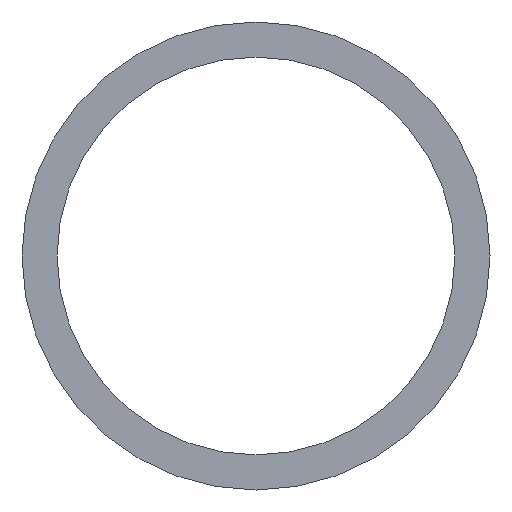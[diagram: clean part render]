
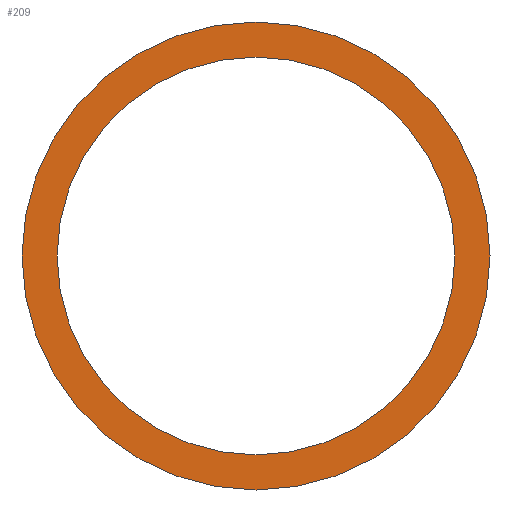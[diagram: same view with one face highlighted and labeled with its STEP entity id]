
A CAD part, front view. The second image highlights one B-rep face of the part: STEP entity #209.
In plain terms, the highlighted planar face has unit normal (0, -1, 0).
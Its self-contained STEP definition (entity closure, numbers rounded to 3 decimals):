
#17 = PLANE ( 'NONE',  #53 ) ;
#21 = VERTEX_POINT ( 'NONE', #31 ) ;
#26 = AXIS2_PLACEMENT_3D ( 'NONE', #187, #97, #207 ) ;
#31 = CARTESIAN_POINT ( 'NONE',  ( 0., -750., 3.4 ) ) ;
#32 = EDGE_LOOP ( 'NONE', ( #174, #83 ) ) ;
#38 = CIRCLE ( 'NONE', #26, 3.4 ) ;
#42 = FACE_BOUND ( 'NONE', #202, .T. ) ;
#53 = AXIS2_PLACEMENT_3D ( 'NONE', #136, #71, #118 ) ;
#58 = CIRCLE ( 'NONE', #194, 3.4 ) ;
#61 = CARTESIAN_POINT ( 'NONE',  ( 0., -750., -4. ) ) ;
#71 = DIRECTION ( 'NONE',  ( 0., 1., 0. ) ) ;
#75 = ORIENTED_EDGE ( 'NONE', *, *, #112, .T. ) ;
#83 = ORIENTED_EDGE ( 'NONE', *, *, #130, .F. ) ;
#94 = CARTESIAN_POINT ( 'NONE',  ( 0., -750., 4. ) ) ;
#97 = DIRECTION ( 'NONE',  ( 0., 1., 0. ) ) ;
#109 = CIRCLE ( 'NONE', #181, 4. ) ;
#112 = EDGE_CURVE ( 'NONE', #21, #185, #38, .T. ) ;
#118 = DIRECTION ( 'NONE',  ( 0., 0., 1. ) ) ;
#120 = EDGE_CURVE ( 'NONE', #185, #21, #58, .T. ) ;
#127 = VERTEX_POINT ( 'NONE', #61 ) ;
#129 = CARTESIAN_POINT ( 'NONE',  ( 0., -750., 0. ) ) ;
#130 = EDGE_CURVE ( 'NONE', #179, #127, #109, .T. ) ;
#136 = CARTESIAN_POINT ( 'NONE',  ( 0., -750., 0. ) ) ;
#142 = DIRECTION ( 'NONE',  ( 0., 1., 0. ) ) ;
#143 = DIRECTION ( 'NONE',  ( 0., 0., 1. ) ) ;
#150 = EDGE_CURVE ( 'NONE', #127, #179, #178, .T. ) ;
#159 = DIRECTION ( 'NONE',  ( 0., 0., 1. ) ) ;
#166 = CARTESIAN_POINT ( 'NONE',  ( 0., -750., 0. ) ) ;
#169 = AXIS2_PLACEMENT_3D ( 'NONE', #166, #193, #143 ) ;
#171 = CARTESIAN_POINT ( 'NONE',  ( 0., -750., 0. ) ) ;
#174 = ORIENTED_EDGE ( 'NONE', *, *, #150, .F. ) ;
#178 = CIRCLE ( 'NONE', #169, 4. ) ;
#179 = VERTEX_POINT ( 'NONE', #94 ) ;
#181 = AXIS2_PLACEMENT_3D ( 'NONE', #171, #189, #208 ) ;
#182 = FACE_OUTER_BOUND ( 'NONE', #32, .T. ) ;
#185 = VERTEX_POINT ( 'NONE', #186 ) ;
#186 = CARTESIAN_POINT ( 'NONE',  ( 0., -750., -3.4 ) ) ;
#187 = CARTESIAN_POINT ( 'NONE',  ( 0., -750., 0. ) ) ;
#189 = DIRECTION ( 'NONE',  ( 0., 1., 0. ) ) ;
#190 = ORIENTED_EDGE ( 'NONE', *, *, #120, .T. ) ;
#193 = DIRECTION ( 'NONE',  ( 0., 1., 0. ) ) ;
#194 = AXIS2_PLACEMENT_3D ( 'NONE', #129, #142, #159 ) ;
#202 = EDGE_LOOP ( 'NONE', ( #190, #75 ) ) ;
#207 = DIRECTION ( 'NONE',  ( 0., 0., 1. ) ) ;
#208 = DIRECTION ( 'NONE',  ( 0., 0., 1. ) ) ;
#209 = ADVANCED_FACE ( 'NONE', ( #182, #42 ), #17, .F. ) ;
